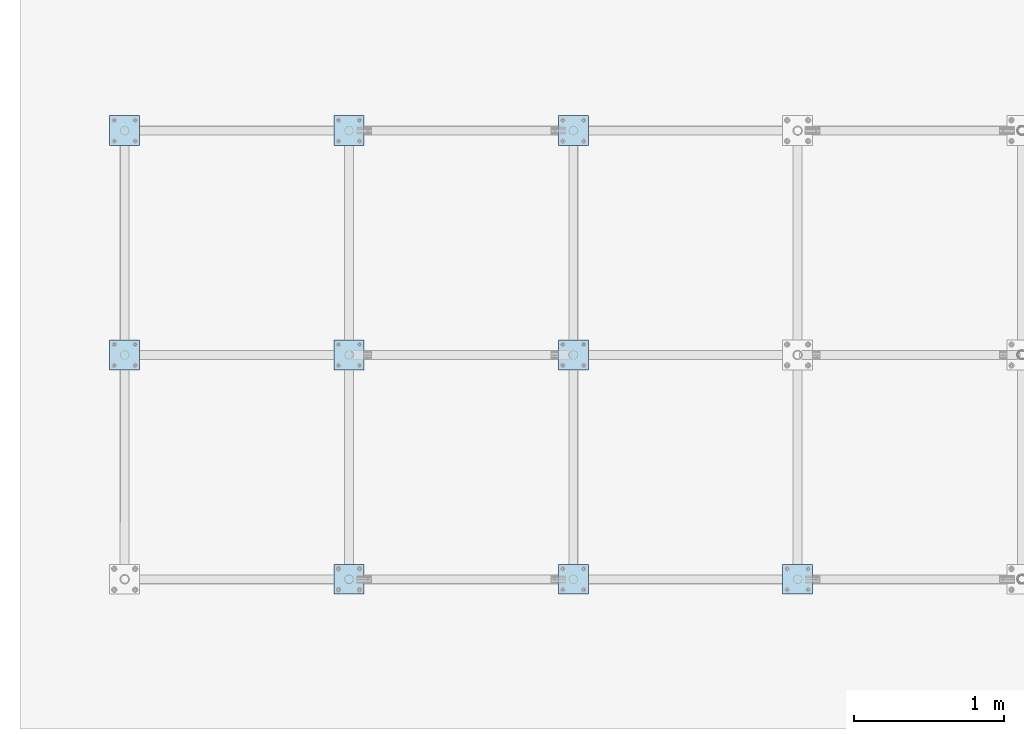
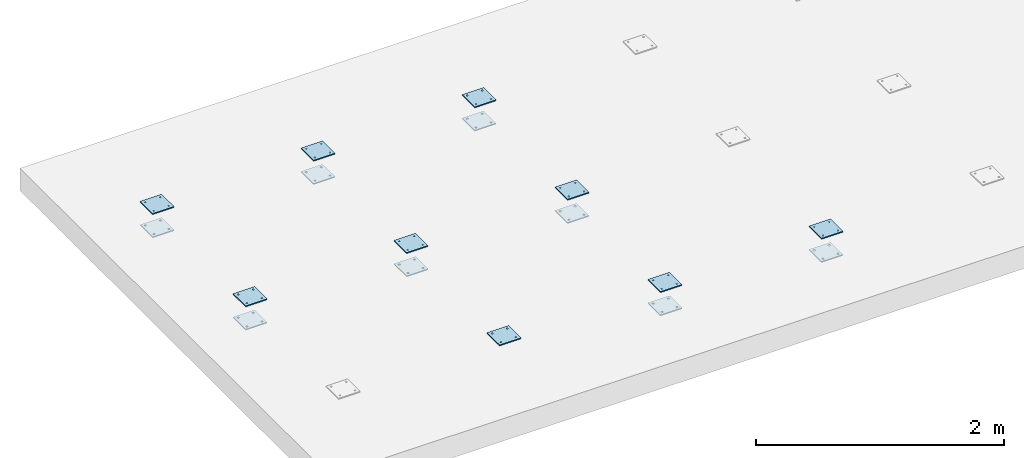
# One storey, part 5 of 30: 17 plates, 68 openings.
"""IFC2X3 building model written with IfcOpenShell, lengths in millimetres."""

from ifc_helpers import new_model, entity, si_unit, converted_unit, frame, frame_2d, origin, origin_with_axes, place, context, project, spatial, polyline, circle, outline, extrude, material, layer, layer_set, element, save


model = new_model("IFC2X3")

# Units and contexts
model_context = context("Model", 3, precision=1e-09, world=origin_with_axes())
ifc_project = project(units=[si_unit("LENGTHUNIT", "METRE", prefix="MILLI"), si_unit("AREAUNIT", "SQUARE_METRE"), si_unit("VOLUMEUNIT", "CUBIC_METRE"), converted_unit("PLANEANGLEUNIT", "DEGREE", entity("IfcPlaneAngleMeasure", 0.01745329), si_unit("PLANEANGLEUNIT", "RADIAN"), dimensions=[0, 0, 0, 0, 0, 0, 0])], contexts=[model_context])

# Site, building, storey
site_placement = place(None, origin_with_axes())
site = spatial("IfcSite", under=ifc_project, at=site_placement, Name="M?nsinger Stra?e, 81477 M?nchen", CompositionType="ELEMENT")
building_placement = place(site_placement, origin_with_axes())
building = spatial("IfcBuilding", under=site, at=building_placement, Name="Struktur 1", CompositionType="ELEMENT")
storey_placement = place(building_placement, origin_with_axes())
storey = spatial("IfcBuildingStorey", under=building, at=storey_placement, Name="Default Storey", CompositionType="ELEMENT", Elevation=0.0)

# Plate, openings
ifc_material = material(Name="S235JR")
ifc_layer = layer(ifc_material, 10.0)
ifc_layer_set = layer_set([ifc_layer], Name="S235JR")
plate_1_placement = place(None, frame((1406.315117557, 2991.2632594, 6745.0), z_axis=(0.0, 0.0, -1.0), x_axis=(1.0, 0.0, 0.0)))
plate_1 = element("IfcPlate", 1, at=plate_1_placement, inside=storey, material=ifc_layer_set, Name="-", ObjectType="-", context=model_context, shape_type="SweptSolid", body=[
    extrude(outline(polyline([(-100.0, -100.0), (100.0, -100.0), (100.0, 100.0), (-100.0, 100.0), (-100.0, -100.0)])), origin_with_axes(), (0.0, 0.0, -1.0), 10.0),
])
opening_1_placement = place(plate_1_placement, frame((63.749, 70.0, 0.5), z_axis=(0.0, 0.0, 1.0), x_axis=(1.0, 0.0, 0.0)))
element("IfcOpeningElement", 2, at=opening_1_placement, cuts=plate_1, ObjectType="Opening", context=model_context, shape_type="SweptSolid", body=[
    extrude(circle(Radius=6.251, at=frame_2d((6.251, 0.0), x_axis=(1.0, 0.0))), origin(), (0.0, 0.0, -1.0), 11.0),
])
opening_2_placement = place(plate_1_placement, frame((-76.251, 70.0, 0.5), z_axis=(0.0, 0.0, 1.0), x_axis=(1.0, 0.0, 0.0)))
element("IfcOpeningElement", 3, at=opening_2_placement, cuts=plate_1, ObjectType="Opening", context=model_context, shape_type="SweptSolid", body=[
    extrude(circle(Radius=6.251, at=frame_2d((6.251, 0.0), x_axis=(1.0, 0.0))), origin(), (0.0, 0.0, -1.0), 11.0),
])
opening_3_placement = place(plate_1_placement, frame((63.749, -70.0, 0.5), z_axis=(0.0, 0.0, 1.0), x_axis=(1.0, 0.0, 0.0)))
element("IfcOpeningElement", 4, at=opening_3_placement, cuts=plate_1, ObjectType="Opening", context=model_context, shape_type="SweptSolid", body=[
    extrude(circle(Radius=6.251, at=frame_2d((6.251, 0.0), x_axis=(1.0, 0.0))), origin(), (0.0, 0.0, -1.0), 11.0),
])
opening_4_placement = place(plate_1_placement, frame((-76.251, -70.0, 0.5), z_axis=(0.0, 0.0, 1.0), x_axis=(1.0, 0.0, 0.0)))
element("IfcOpeningElement", 5, at=opening_4_placement, cuts=plate_1, ObjectType="Opening", context=model_context, shape_type="SweptSolid", body=[
    extrude(circle(Radius=6.251, at=frame_2d((6.251, 0.0), x_axis=(1.0, 0.0))), origin(), (0.0, 0.0, -1.0), 11.0),
])

plate_2_placement = place(None, frame((1406.315117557, 2991.2632594, 6515.0), z_axis=(0.0, 0.0, -1.0), x_axis=(1.0, 0.0, 0.0)))
plate_2 = element("IfcPlate", 6, at=plate_2_placement, inside=storey, material=ifc_layer_set, Name="-", ObjectType="-", context=model_context, shape_type="SweptSolid", body=[
    extrude(outline(polyline([(-100.0, -100.0), (100.0, -100.0), (100.0, 100.0), (-100.0, 100.0), (-100.0, -100.0)])), origin_with_axes(), (0.0, 0.0, -1.0), 10.0),
])
opening_5_placement = place(plate_2_placement, frame((60.999, 70.0, 0.5), z_axis=(0.0, 0.0, 1.0), x_axis=(1.0, 0.0, 0.0)))
element("IfcOpeningElement", 7, at=opening_5_placement, cuts=plate_2, ObjectType="Opening", context=model_context, shape_type="SweptSolid", body=[
    extrude(circle(Radius=9.001, at=frame_2d((9.001, 0.0), x_axis=(1.0, 0.0))), origin(), (0.0, 0.0, -1.0), 11.0),
])
opening_6_placement = place(plate_2_placement, frame((-79.001, 70.0, 0.5), z_axis=(0.0, 0.0, 1.0), x_axis=(1.0, 0.0, 0.0)))
element("IfcOpeningElement", 8, at=opening_6_placement, cuts=plate_2, ObjectType="Opening", context=model_context, shape_type="SweptSolid", body=[
    extrude(circle(Radius=9.001, at=frame_2d((9.001, 0.0), x_axis=(1.0, 0.0))), origin(), (0.0, 0.0, -1.0), 11.0),
])
opening_7_placement = place(plate_2_placement, frame((60.999, -70.0, 0.5), z_axis=(0.0, 0.0, 1.0), x_axis=(1.0, 0.0, 0.0)))
element("IfcOpeningElement", 9, at=opening_7_placement, cuts=plate_2, ObjectType="Opening", context=model_context, shape_type="SweptSolid", body=[
    extrude(circle(Radius=9.001, at=frame_2d((9.001, 0.0), x_axis=(1.0, 0.0))), origin(), (0.0, 0.0, -1.0), 11.0),
])
opening_8_placement = place(plate_2_placement, frame((-79.001, -70.0, 0.5), z_axis=(0.0, 0.0, 1.0), x_axis=(1.0, 0.0, 0.0)))
element("IfcOpeningElement", 10, at=opening_8_placement, cuts=plate_2, ObjectType="Opening", context=model_context, shape_type="SweptSolid", body=[
    extrude(circle(Radius=9.001, at=frame_2d((9.001, 0.0), x_axis=(1.0, 0.0))), origin(), (0.0, 0.0, -1.0), 11.0),
])

plate_3_placement = place(None, frame((1406.315117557, 4491.2632594, 6745.0), z_axis=(0.0, 0.0, -1.0), x_axis=(1.0, 0.0, 0.0)))
plate_3 = element("IfcPlate", 11, at=plate_3_placement, inside=storey, material=ifc_layer_set, Name="-", ObjectType="-", context=model_context, shape_type="SweptSolid", body=[
    extrude(outline(polyline([(-100.0, -100.0), (100.0, -100.0), (100.0, 100.0), (-100.0, 100.0), (-100.0, -100.0)])), origin_with_axes(), (0.0, 0.0, -1.0), 10.0),
])
opening_9_placement = place(plate_3_placement, frame((63.749, 70.0, 0.5), z_axis=(0.0, 0.0, 1.0), x_axis=(1.0, 0.0, 0.0)))
element("IfcOpeningElement", 12, at=opening_9_placement, cuts=plate_3, ObjectType="Opening", context=model_context, shape_type="SweptSolid", body=[
    extrude(circle(Radius=6.251, at=frame_2d((6.251, 0.0), x_axis=(1.0, 0.0))), origin(), (0.0, 0.0, -1.0), 11.0),
])
opening_10_placement = place(plate_3_placement, frame((-76.251, 70.0, 0.5), z_axis=(0.0, 0.0, 1.0), x_axis=(1.0, 0.0, 0.0)))
element("IfcOpeningElement", 13, at=opening_10_placement, cuts=plate_3, ObjectType="Opening", context=model_context, shape_type="SweptSolid", body=[
    extrude(circle(Radius=6.251, at=frame_2d((6.251, 0.0), x_axis=(1.0, 0.0))), origin(), (0.0, 0.0, -1.0), 11.0),
])
opening_11_placement = place(plate_3_placement, frame((63.749, -70.0, 0.5), z_axis=(0.0, 0.0, 1.0), x_axis=(1.0, 0.0, 0.0)))
element("IfcOpeningElement", 14, at=opening_11_placement, cuts=plate_3, ObjectType="Opening", context=model_context, shape_type="SweptSolid", body=[
    extrude(circle(Radius=6.251, at=frame_2d((6.251, 0.0), x_axis=(1.0, 0.0))), origin(), (0.0, 0.0, -1.0), 11.0),
])
opening_12_placement = place(plate_3_placement, frame((-76.251, -70.0, 0.5), z_axis=(0.0, 0.0, 1.0), x_axis=(1.0, 0.0, 0.0)))
element("IfcOpeningElement", 15, at=opening_12_placement, cuts=plate_3, ObjectType="Opening", context=model_context, shape_type="SweptSolid", body=[
    extrude(circle(Radius=6.251, at=frame_2d((6.251, 0.0), x_axis=(1.0, 0.0))), origin(), (0.0, 0.0, -1.0), 11.0),
])

plate_4_placement = place(None, frame((1406.315117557, 4491.2632594, 6515.0), z_axis=(0.0, 0.0, -1.0), x_axis=(1.0, 0.0, 0.0)))
plate_4 = element("IfcPlate", 16, at=plate_4_placement, inside=storey, material=ifc_layer_set, Name="-", ObjectType="-", context=model_context, shape_type="SweptSolid", body=[
    extrude(outline(polyline([(-100.0, -100.0), (100.0, -100.0), (100.0, 100.0), (-100.0, 100.0), (-100.0, -100.0)])), origin_with_axes(), (0.0, 0.0, -1.0), 10.0),
])
opening_13_placement = place(plate_4_placement, frame((60.999, 70.0, 0.5), z_axis=(0.0, 0.0, 1.0), x_axis=(1.0, 0.0, 0.0)))
element("IfcOpeningElement", 17, at=opening_13_placement, cuts=plate_4, ObjectType="Opening", context=model_context, shape_type="SweptSolid", body=[
    extrude(circle(Radius=9.001, at=frame_2d((9.001, 0.0), x_axis=(1.0, 0.0))), origin(), (0.0, 0.0, -1.0), 11.0),
])
opening_14_placement = place(plate_4_placement, frame((-79.001, 70.0, 0.5), z_axis=(0.0, 0.0, 1.0), x_axis=(1.0, 0.0, 0.0)))
element("IfcOpeningElement", 18, at=opening_14_placement, cuts=plate_4, ObjectType="Opening", context=model_context, shape_type="SweptSolid", body=[
    extrude(circle(Radius=9.001, at=frame_2d((9.001, 0.0), x_axis=(1.0, 0.0))), origin(), (0.0, 0.0, -1.0), 11.0),
])
opening_15_placement = place(plate_4_placement, frame((60.999, -70.0, 0.5), z_axis=(0.0, 0.0, 1.0), x_axis=(1.0, 0.0, 0.0)))
element("IfcOpeningElement", 19, at=opening_15_placement, cuts=plate_4, ObjectType="Opening", context=model_context, shape_type="SweptSolid", body=[
    extrude(circle(Radius=9.001, at=frame_2d((9.001, 0.0), x_axis=(1.0, 0.0))), origin(), (0.0, 0.0, -1.0), 11.0),
])
opening_16_placement = place(plate_4_placement, frame((-79.001, -70.0, 0.5), z_axis=(0.0, 0.0, 1.0), x_axis=(1.0, 0.0, 0.0)))
element("IfcOpeningElement", 20, at=opening_16_placement, cuts=plate_4, ObjectType="Opening", context=model_context, shape_type="SweptSolid", body=[
    extrude(circle(Radius=9.001, at=frame_2d((9.001, 0.0), x_axis=(1.0, 0.0))), origin(), (0.0, 0.0, -1.0), 11.0),
])

plate_5_placement = place(None, frame((2906.315117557, 2991.2632594, 6515.0), z_axis=(0.0, 0.0, 1.0), x_axis=(-1.0, 0.0, 0.0)))
plate_5 = element("IfcPlate", 21, at=plate_5_placement, inside=storey, material=ifc_layer_set, Name="-", ObjectType="-", context=model_context, shape_type="SweptSolid", body=[
    extrude(outline(polyline([(-100.0, -100.0), (100.0, -100.0), (100.0, 100.0), (-100.0, 100.0), (-100.0, -100.0)])), origin_with_axes(), (0.0, 0.0, 1.0), 10.0),
])
opening_17_placement = place(plate_5_placement, frame((-100.0, 100.0, -0.5), z_axis=(0.0, 0.0, 1.0), x_axis=(1.0, 0.0, 0.0)))
element("IfcOpeningElement", 22, at=opening_17_placement, cuts=plate_5, ObjectType="Opening", context=model_context, shape_type="SweptSolid", body=[
    extrude(circle(Radius=9.001, at=frame_2d((170.0, -30.0), x_axis=(1.0, 0.0))), origin(), (0.0, 0.0, 1.0), 11.0),
])
opening_18_placement = place(plate_5_placement, frame((-100.0, 100.0, -0.5), z_axis=(0.0, 0.0, 1.0), x_axis=(1.0, 0.0, 0.0)))
element("IfcOpeningElement", 23, at=opening_18_placement, cuts=plate_5, ObjectType="Opening", context=model_context, shape_type="SweptSolid", body=[
    extrude(circle(Radius=9.001, at=frame_2d((30.0, -30.0), x_axis=(1.0, 0.0))), origin(), (0.0, 0.0, 1.0), 11.0),
])
opening_19_placement = place(plate_5_placement, frame((-100.0, 100.0, -0.5), z_axis=(0.0, 0.0, 1.0), x_axis=(1.0, 0.0, 0.0)))
element("IfcOpeningElement", 24, at=opening_19_placement, cuts=plate_5, ObjectType="Opening", context=model_context, shape_type="SweptSolid", body=[
    extrude(circle(Radius=9.001, at=frame_2d((170.0, -170.0), x_axis=(1.0, 0.0))), origin(), (0.0, 0.0, 1.0), 11.0),
])
opening_20_placement = place(plate_5_placement, frame((-100.0, 100.0, -0.5), z_axis=(0.0, 0.0, 1.0), x_axis=(1.0, 0.0, 0.0)))
element("IfcOpeningElement", 25, at=opening_20_placement, cuts=plate_5, ObjectType="Opening", context=model_context, shape_type="SweptSolid", body=[
    extrude(circle(Radius=9.001, at=frame_2d((30.0, -170.0), x_axis=(1.0, 0.0))), origin(), (0.0, 0.0, 1.0), 11.0),
])

plate_6_placement = place(None, frame((2906.315117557, 2991.2632594, 6745.0), z_axis=(0.0, 0.0, 1.0), x_axis=(-1.0, 0.0, 0.0)))
plate_6 = element("IfcPlate", 26, at=plate_6_placement, inside=storey, material=ifc_layer_set, Name="-", ObjectType="-", context=model_context, shape_type="SweptSolid", body=[
    extrude(outline(polyline([(-100.0, -100.0), (100.0, -100.0), (100.0, 100.0), (-100.0, 100.0), (-100.0, -100.0)])), origin_with_axes(), (0.0, 0.0, 1.0), 10.0),
])
opening_21_placement = place(plate_6_placement, frame((-100.0, 100.0, -0.5), z_axis=(0.0, 0.0, 1.0), x_axis=(1.0, 0.0, 0.0)))
element("IfcOpeningElement", 27, at=opening_21_placement, cuts=plate_6, ObjectType="Opening", context=model_context, shape_type="SweptSolid", body=[
    extrude(circle(Radius=6.251, at=frame_2d((170.0, -30.0), x_axis=(1.0, 0.0))), origin(), (0.0, 0.0, 1.0), 11.0),
])
opening_22_placement = place(plate_6_placement, frame((-100.0, 100.0, -0.5), z_axis=(0.0, 0.0, 1.0), x_axis=(1.0, 0.0, 0.0)))
element("IfcOpeningElement", 28, at=opening_22_placement, cuts=plate_6, ObjectType="Opening", context=model_context, shape_type="SweptSolid", body=[
    extrude(circle(Radius=6.251, at=frame_2d((30.0, -30.0), x_axis=(1.0, 0.0))), origin(), (0.0, 0.0, 1.0), 11.0),
])
opening_23_placement = place(plate_6_placement, frame((-100.0, 100.0, -0.5), z_axis=(0.0, 0.0, 1.0), x_axis=(1.0, 0.0, 0.0)))
element("IfcOpeningElement", 29, at=opening_23_placement, cuts=plate_6, ObjectType="Opening", context=model_context, shape_type="SweptSolid", body=[
    extrude(circle(Radius=6.251, at=frame_2d((170.0, -170.0), x_axis=(1.0, 0.0))), origin(), (0.0, 0.0, 1.0), 11.0),
])
opening_24_placement = place(plate_6_placement, frame((-100.0, 100.0, -0.5), z_axis=(0.0, 0.0, 1.0), x_axis=(1.0, 0.0, 0.0)))
element("IfcOpeningElement", 30, at=opening_24_placement, cuts=plate_6, ObjectType="Opening", context=model_context, shape_type="SweptSolid", body=[
    extrude(circle(Radius=6.251, at=frame_2d((30.0, -170.0), x_axis=(1.0, 0.0))), origin(), (0.0, 0.0, 1.0), 11.0),
])

plate_7_placement = place(None, frame((2906.315117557, 1491.2632594, 6745.0), z_axis=(0.0, 0.0, -1.0), x_axis=(0.0, 1.0, 0.0)))
plate_7 = element("IfcPlate", 31, at=plate_7_placement, inside=storey, material=ifc_layer_set, Name="-", ObjectType="-", context=model_context, shape_type="SweptSolid", body=[
    extrude(outline(polyline([(-100.0, -100.0), (100.0, -100.0), (100.0, 100.0), (-100.0, 100.0), (-100.0, -100.0)])), origin_with_axes(), (0.0, 0.0, -1.0), 10.0),
])
opening_25_placement = place(plate_7_placement, frame((63.749, 70.0, 0.5), z_axis=(0.0, 0.0, 1.0), x_axis=(1.0, 0.0, 0.0)))
element("IfcOpeningElement", 32, at=opening_25_placement, cuts=plate_7, ObjectType="Opening", context=model_context, shape_type="SweptSolid", body=[
    extrude(circle(Radius=6.251, at=frame_2d((6.251, 0.0), x_axis=(1.0, 0.0))), origin(), (0.0, 0.0, -1.0), 11.0),
])
opening_26_placement = place(plate_7_placement, frame((-76.251, 70.0, 0.5), z_axis=(0.0, 0.0, 1.0), x_axis=(1.0, 0.0, 0.0)))
element("IfcOpeningElement", 33, at=opening_26_placement, cuts=plate_7, ObjectType="Opening", context=model_context, shape_type="SweptSolid", body=[
    extrude(circle(Radius=6.251, at=frame_2d((6.251, 0.0), x_axis=(1.0, 0.0))), origin(), (0.0, 0.0, -1.0), 11.0),
])
opening_27_placement = place(plate_7_placement, frame((63.749, -70.0, 0.5), z_axis=(0.0, 0.0, 1.0), x_axis=(1.0, 0.0, 0.0)))
element("IfcOpeningElement", 34, at=opening_27_placement, cuts=plate_7, ObjectType="Opening", context=model_context, shape_type="SweptSolid", body=[
    extrude(circle(Radius=6.251, at=frame_2d((6.251, 0.0), x_axis=(1.0, 0.0))), origin(), (0.0, 0.0, -1.0), 11.0),
])
opening_28_placement = place(plate_7_placement, frame((-76.251, -70.0, 0.5), z_axis=(0.0, 0.0, 1.0), x_axis=(1.0, 0.0, 0.0)))
element("IfcOpeningElement", 35, at=opening_28_placement, cuts=plate_7, ObjectType="Opening", context=model_context, shape_type="SweptSolid", body=[
    extrude(circle(Radius=6.251, at=frame_2d((6.251, 0.0), x_axis=(1.0, 0.0))), origin(), (0.0, 0.0, -1.0), 11.0),
])

plate_8_placement = place(None, frame((2906.315117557, 4491.2632594, 6745.0), z_axis=(0.0, 0.0, 1.0), x_axis=(0.0, -1.0, 0.0)))
plate_8 = element("IfcPlate", 36, at=plate_8_placement, inside=storey, material=ifc_layer_set, Name="-", ObjectType="-", context=model_context, shape_type="SweptSolid", body=[
    extrude(outline(polyline([(-100.0, -100.0), (100.0, -100.0), (100.0, 100.0), (-100.0, 100.0), (-100.0, -100.0)])), origin_with_axes(), (0.0, 0.0, 1.0), 10.0),
])
opening_29_placement = place(plate_8_placement, frame((-100.0, 100.0, -0.5), z_axis=(0.0, 0.0, 1.0), x_axis=(1.0, 0.0, 0.0)))
element("IfcOpeningElement", 37, at=opening_29_placement, cuts=plate_8, ObjectType="Opening", context=model_context, shape_type="SweptSolid", body=[
    extrude(circle(Radius=6.251, at=frame_2d((170.0, -30.0), x_axis=(1.0, 0.0))), origin(), (0.0, 0.0, 1.0), 11.0),
])
opening_30_placement = place(plate_8_placement, frame((-100.0, 100.0, -0.5), z_axis=(0.0, 0.0, 1.0), x_axis=(1.0, 0.0, 0.0)))
element("IfcOpeningElement", 38, at=opening_30_placement, cuts=plate_8, ObjectType="Opening", context=model_context, shape_type="SweptSolid", body=[
    extrude(circle(Radius=6.251, at=frame_2d((30.0, -30.0), x_axis=(1.0, 0.0))), origin(), (0.0, 0.0, 1.0), 11.0),
])
opening_31_placement = place(plate_8_placement, frame((-100.0, 100.0, -0.5), z_axis=(0.0, 0.0, 1.0), x_axis=(1.0, 0.0, 0.0)))
element("IfcOpeningElement", 39, at=opening_31_placement, cuts=plate_8, ObjectType="Opening", context=model_context, shape_type="SweptSolid", body=[
    extrude(circle(Radius=6.251, at=frame_2d((170.0, -170.0), x_axis=(1.0, 0.0))), origin(), (0.0, 0.0, 1.0), 11.0),
])
opening_32_placement = place(plate_8_placement, frame((-100.0, 100.0, -0.5), z_axis=(0.0, 0.0, 1.0), x_axis=(1.0, 0.0, 0.0)))
element("IfcOpeningElement", 40, at=opening_32_placement, cuts=plate_8, ObjectType="Opening", context=model_context, shape_type="SweptSolid", body=[
    extrude(circle(Radius=6.251, at=frame_2d((30.0, -170.0), x_axis=(1.0, 0.0))), origin(), (0.0, 0.0, 1.0), 11.0),
])

plate_9_placement = place(None, frame((2906.315117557, 4491.2632594, 6515.0), z_axis=(0.0, 0.0, 1.0), x_axis=(0.0, -1.0, 0.0)))
plate_9 = element("IfcPlate", 41, at=plate_9_placement, inside=storey, material=ifc_layer_set, Name="-", ObjectType="-", context=model_context, shape_type="SweptSolid", body=[
    extrude(outline(polyline([(-100.0, -100.0), (100.0, -100.0), (100.0, 100.0), (-100.0, 100.0), (-100.0, -100.0)])), origin_with_axes(), (0.0, 0.0, 1.0), 10.0),
])
opening_33_placement = place(plate_9_placement, frame((-100.0, 100.0, -0.5), z_axis=(0.0, 0.0, 1.0), x_axis=(1.0, 0.0, 0.0)))
element("IfcOpeningElement", 42, at=opening_33_placement, cuts=plate_9, ObjectType="Opening", context=model_context, shape_type="SweptSolid", body=[
    extrude(circle(Radius=9.001, at=frame_2d((170.0, -30.0), x_axis=(1.0, 0.0))), origin(), (0.0, 0.0, 1.0), 11.0),
])
opening_34_placement = place(plate_9_placement, frame((-100.0, 100.0, -0.5), z_axis=(0.0, 0.0, 1.0), x_axis=(1.0, 0.0, 0.0)))
element("IfcOpeningElement", 43, at=opening_34_placement, cuts=plate_9, ObjectType="Opening", context=model_context, shape_type="SweptSolid", body=[
    extrude(circle(Radius=9.001, at=frame_2d((30.0, -30.0), x_axis=(1.0, 0.0))), origin(), (0.0, 0.0, 1.0), 11.0),
])
opening_35_placement = place(plate_9_placement, frame((-100.0, 100.0, -0.5), z_axis=(0.0, 0.0, 1.0), x_axis=(1.0, 0.0, 0.0)))
element("IfcOpeningElement", 44, at=opening_35_placement, cuts=plate_9, ObjectType="Opening", context=model_context, shape_type="SweptSolid", body=[
    extrude(circle(Radius=9.001, at=frame_2d((170.0, -170.0), x_axis=(1.0, 0.0))), origin(), (0.0, 0.0, 1.0), 11.0),
])
opening_36_placement = place(plate_9_placement, frame((-100.0, 100.0, -0.5), z_axis=(0.0, 0.0, 1.0), x_axis=(1.0, 0.0, 0.0)))
element("IfcOpeningElement", 45, at=opening_36_placement, cuts=plate_9, ObjectType="Opening", context=model_context, shape_type="SweptSolid", body=[
    extrude(circle(Radius=9.001, at=frame_2d((30.0, -170.0), x_axis=(1.0, 0.0))), origin(), (0.0, 0.0, 1.0), 11.0),
])

plate_10_placement = place(None, frame((4406.315117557, 2991.2632594, 6515.0), z_axis=(0.0, 0.0, 1.0), x_axis=(-1.0, 0.0, 0.0)))
plate_10 = element("IfcPlate", 46, at=plate_10_placement, inside=storey, material=ifc_layer_set, Name="-", ObjectType="-", context=model_context, shape_type="SweptSolid", body=[
    extrude(outline(polyline([(-100.0, -100.0), (100.0, -100.0), (100.0, 100.0), (-100.0, 100.0), (-100.0, -100.0)])), origin_with_axes(), (0.0, 0.0, 1.0), 10.0),
])
opening_37_placement = place(plate_10_placement, frame((-100.0, 100.0, -0.5), z_axis=(0.0, 0.0, 1.0), x_axis=(1.0, 0.0, 0.0)))
element("IfcOpeningElement", 47, at=opening_37_placement, cuts=plate_10, ObjectType="Opening", context=model_context, shape_type="SweptSolid", body=[
    extrude(circle(Radius=9.001, at=frame_2d((170.0, -30.0), x_axis=(1.0, 0.0))), origin(), (0.0, 0.0, 1.0), 11.0),
])
opening_38_placement = place(plate_10_placement, frame((-100.0, 100.0, -0.5), z_axis=(0.0, 0.0, 1.0), x_axis=(1.0, 0.0, 0.0)))
element("IfcOpeningElement", 48, at=opening_38_placement, cuts=plate_10, ObjectType="Opening", context=model_context, shape_type="SweptSolid", body=[
    extrude(circle(Radius=9.001, at=frame_2d((30.0, -30.0), x_axis=(1.0, 0.0))), origin(), (0.0, 0.0, 1.0), 11.0),
])
opening_39_placement = place(plate_10_placement, frame((-100.0, 100.0, -0.5), z_axis=(0.0, 0.0, 1.0), x_axis=(1.0, 0.0, 0.0)))
element("IfcOpeningElement", 49, at=opening_39_placement, cuts=plate_10, ObjectType="Opening", context=model_context, shape_type="SweptSolid", body=[
    extrude(circle(Radius=9.001, at=frame_2d((170.0, -170.0), x_axis=(1.0, 0.0))), origin(), (0.0, 0.0, 1.0), 11.0),
])
opening_40_placement = place(plate_10_placement, frame((-100.0, 100.0, -0.5), z_axis=(0.0, 0.0, 1.0), x_axis=(1.0, 0.0, 0.0)))
element("IfcOpeningElement", 50, at=opening_40_placement, cuts=plate_10, ObjectType="Opening", context=model_context, shape_type="SweptSolid", body=[
    extrude(circle(Radius=9.001, at=frame_2d((30.0, -170.0), x_axis=(1.0, 0.0))), origin(), (0.0, 0.0, 1.0), 11.0),
])

plate_11_placement = place(None, frame((4406.315117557, 2991.2632594, 6745.0), z_axis=(0.0, 0.0, 1.0), x_axis=(-1.0, 0.0, 0.0)))
plate_11 = element("IfcPlate", 51, at=plate_11_placement, inside=storey, material=ifc_layer_set, Name="-", ObjectType="-", context=model_context, shape_type="SweptSolid", body=[
    extrude(outline(polyline([(-100.0, -100.0), (100.0, -100.0), (100.0, 100.0), (-100.0, 100.0), (-100.0, -100.0)])), origin_with_axes(), (0.0, 0.0, 1.0), 10.0),
])
opening_41_placement = place(plate_11_placement, frame((-100.0, 100.0, -0.5), z_axis=(0.0, 0.0, 1.0), x_axis=(1.0, 0.0, 0.0)))
element("IfcOpeningElement", 52, at=opening_41_placement, cuts=plate_11, ObjectType="Opening", context=model_context, shape_type="SweptSolid", body=[
    extrude(circle(Radius=6.251, at=frame_2d((170.0, -30.0), x_axis=(1.0, 0.0))), origin(), (0.0, 0.0, 1.0), 11.0),
])
opening_42_placement = place(plate_11_placement, frame((-100.0, 100.0, -0.5), z_axis=(0.0, 0.0, 1.0), x_axis=(1.0, 0.0, 0.0)))
element("IfcOpeningElement", 53, at=opening_42_placement, cuts=plate_11, ObjectType="Opening", context=model_context, shape_type="SweptSolid", body=[
    extrude(circle(Radius=6.251, at=frame_2d((30.0, -30.0), x_axis=(1.0, 0.0))), origin(), (0.0, 0.0, 1.0), 11.0),
])
opening_43_placement = place(plate_11_placement, frame((-100.0, 100.0, -0.5), z_axis=(0.0, 0.0, 1.0), x_axis=(1.0, 0.0, 0.0)))
element("IfcOpeningElement", 54, at=opening_43_placement, cuts=plate_11, ObjectType="Opening", context=model_context, shape_type="SweptSolid", body=[
    extrude(circle(Radius=6.251, at=frame_2d((170.0, -170.0), x_axis=(1.0, 0.0))), origin(), (0.0, 0.0, 1.0), 11.0),
])
opening_44_placement = place(plate_11_placement, frame((-100.0, 100.0, -0.5), z_axis=(0.0, 0.0, 1.0), x_axis=(1.0, 0.0, 0.0)))
element("IfcOpeningElement", 55, at=opening_44_placement, cuts=plate_11, ObjectType="Opening", context=model_context, shape_type="SweptSolid", body=[
    extrude(circle(Radius=6.251, at=frame_2d((30.0, -170.0), x_axis=(1.0, 0.0))), origin(), (0.0, 0.0, 1.0), 11.0),
])

plate_12_placement = place(None, frame((4406.315117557, 1491.2632594, 6745.0), z_axis=(0.0, 0.0, -1.0), x_axis=(0.0, 1.0, 0.0)))
plate_12 = element("IfcPlate", 56, at=plate_12_placement, inside=storey, material=ifc_layer_set, Name="-", ObjectType="-", context=model_context, shape_type="SweptSolid", body=[
    extrude(outline(polyline([(-100.0, -100.0), (100.0, -100.0), (100.0, 100.0), (-100.0, 100.0), (-100.0, -100.0)])), origin_with_axes(), (0.0, 0.0, -1.0), 10.0),
])
opening_45_placement = place(plate_12_placement, frame((63.749, 70.0, 0.5), z_axis=(0.0, 0.0, 1.0), x_axis=(1.0, 0.0, 0.0)))
element("IfcOpeningElement", 57, at=opening_45_placement, cuts=plate_12, ObjectType="Opening", context=model_context, shape_type="SweptSolid", body=[
    extrude(circle(Radius=6.251, at=frame_2d((6.251, 0.0), x_axis=(1.0, 0.0))), origin(), (0.0, 0.0, -1.0), 11.0),
])
opening_46_placement = place(plate_12_placement, frame((-76.251, 70.0, 0.5), z_axis=(0.0, 0.0, 1.0), x_axis=(1.0, 0.0, 0.0)))
element("IfcOpeningElement", 58, at=opening_46_placement, cuts=plate_12, ObjectType="Opening", context=model_context, shape_type="SweptSolid", body=[
    extrude(circle(Radius=6.251, at=frame_2d((6.251, 0.0), x_axis=(1.0, 0.0))), origin(), (0.0, 0.0, -1.0), 11.0),
])
opening_47_placement = place(plate_12_placement, frame((63.749, -70.0, 0.5), z_axis=(0.0, 0.0, 1.0), x_axis=(1.0, 0.0, 0.0)))
element("IfcOpeningElement", 59, at=opening_47_placement, cuts=plate_12, ObjectType="Opening", context=model_context, shape_type="SweptSolid", body=[
    extrude(circle(Radius=6.251, at=frame_2d((6.251, 0.0), x_axis=(1.0, 0.0))), origin(), (0.0, 0.0, -1.0), 11.0),
])
opening_48_placement = place(plate_12_placement, frame((-76.251, -70.0, 0.5), z_axis=(0.0, 0.0, 1.0), x_axis=(1.0, 0.0, 0.0)))
element("IfcOpeningElement", 60, at=opening_48_placement, cuts=plate_12, ObjectType="Opening", context=model_context, shape_type="SweptSolid", body=[
    extrude(circle(Radius=6.251, at=frame_2d((6.251, 0.0), x_axis=(1.0, 0.0))), origin(), (0.0, 0.0, -1.0), 11.0),
])

plate_13_placement = place(None, frame((4406.315117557, 1491.2632594, 6515.0), z_axis=(0.0, 0.0, -1.0), x_axis=(0.0, 1.0, 0.0)))
plate_13 = element("IfcPlate", 61, at=plate_13_placement, inside=storey, material=ifc_layer_set, Name="-", ObjectType="-", context=model_context, shape_type="SweptSolid", body=[
    extrude(outline(polyline([(-100.0, -100.0), (100.0, -100.0), (100.0, 100.0), (-100.0, 100.0), (-100.0, -100.0)])), origin_with_axes(), (0.0, 0.0, -1.0), 10.0),
])
opening_49_placement = place(plate_13_placement, frame((60.999, 70.0, 0.5), z_axis=(0.0, 0.0, 1.0), x_axis=(1.0, 0.0, 0.0)))
element("IfcOpeningElement", 62, at=opening_49_placement, cuts=plate_13, ObjectType="Opening", context=model_context, shape_type="SweptSolid", body=[
    extrude(circle(Radius=9.001, at=frame_2d((9.001, 0.0), x_axis=(1.0, 0.0))), origin(), (0.0, 0.0, -1.0), 11.0),
])
opening_50_placement = place(plate_13_placement, frame((-79.001, 70.0, 0.5), z_axis=(0.0, 0.0, 1.0), x_axis=(1.0, 0.0, 0.0)))
element("IfcOpeningElement", 63, at=opening_50_placement, cuts=plate_13, ObjectType="Opening", context=model_context, shape_type="SweptSolid", body=[
    extrude(circle(Radius=9.001, at=frame_2d((9.001, 0.0), x_axis=(1.0, 0.0))), origin(), (0.0, 0.0, -1.0), 11.0),
])
opening_51_placement = place(plate_13_placement, frame((60.999, -70.0, 0.5), z_axis=(0.0, 0.0, 1.0), x_axis=(1.0, 0.0, 0.0)))
element("IfcOpeningElement", 64, at=opening_51_placement, cuts=plate_13, ObjectType="Opening", context=model_context, shape_type="SweptSolid", body=[
    extrude(circle(Radius=9.001, at=frame_2d((9.001, 0.0), x_axis=(1.0, 0.0))), origin(), (0.0, 0.0, -1.0), 11.0),
])
opening_52_placement = place(plate_13_placement, frame((-79.001, -70.0, 0.5), z_axis=(0.0, 0.0, 1.0), x_axis=(1.0, 0.0, 0.0)))
element("IfcOpeningElement", 65, at=opening_52_placement, cuts=plate_13, ObjectType="Opening", context=model_context, shape_type="SweptSolid", body=[
    extrude(circle(Radius=9.001, at=frame_2d((9.001, 0.0), x_axis=(1.0, 0.0))), origin(), (0.0, 0.0, -1.0), 11.0),
])

plate_14_placement = place(None, frame((4406.315117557, 4491.2632594, 6515.0), z_axis=(0.0, 0.0, 1.0), x_axis=(0.0, -1.0, 0.0)))
plate_14 = element("IfcPlate", 66, at=plate_14_placement, inside=storey, material=ifc_layer_set, Name="-", ObjectType="-", context=model_context, shape_type="SweptSolid", body=[
    extrude(outline(polyline([(-100.0, -100.0), (100.0, -100.0), (100.0, 100.0), (-100.0, 100.0), (-100.0, -100.0)])), origin_with_axes(), (0.0, 0.0, 1.0), 10.0),
])
opening_53_placement = place(plate_14_placement, frame((-100.0, 100.0, -0.5), z_axis=(0.0, 0.0, 1.0), x_axis=(1.0, 0.0, 0.0)))
element("IfcOpeningElement", 67, at=opening_53_placement, cuts=plate_14, ObjectType="Opening", context=model_context, shape_type="SweptSolid", body=[
    extrude(circle(Radius=9.001, at=frame_2d((170.0, -30.0), x_axis=(1.0, 0.0))), origin(), (0.0, 0.0, 1.0), 11.0),
])
opening_54_placement = place(plate_14_placement, frame((-100.0, 100.0, -0.5), z_axis=(0.0, 0.0, 1.0), x_axis=(1.0, 0.0, 0.0)))
element("IfcOpeningElement", 68, at=opening_54_placement, cuts=plate_14, ObjectType="Opening", context=model_context, shape_type="SweptSolid", body=[
    extrude(circle(Radius=9.001, at=frame_2d((30.0, -30.0), x_axis=(1.0, 0.0))), origin(), (0.0, 0.0, 1.0), 11.0),
])
opening_55_placement = place(plate_14_placement, frame((-100.0, 100.0, -0.5), z_axis=(0.0, 0.0, 1.0), x_axis=(1.0, 0.0, 0.0)))
element("IfcOpeningElement", 69, at=opening_55_placement, cuts=plate_14, ObjectType="Opening", context=model_context, shape_type="SweptSolid", body=[
    extrude(circle(Radius=9.001, at=frame_2d((170.0, -170.0), x_axis=(1.0, 0.0))), origin(), (0.0, 0.0, 1.0), 11.0),
])
opening_56_placement = place(plate_14_placement, frame((-100.0, 100.0, -0.5), z_axis=(0.0, 0.0, 1.0), x_axis=(1.0, 0.0, 0.0)))
element("IfcOpeningElement", 70, at=opening_56_placement, cuts=plate_14, ObjectType="Opening", context=model_context, shape_type="SweptSolid", body=[
    extrude(circle(Radius=9.001, at=frame_2d((30.0, -170.0), x_axis=(1.0, 0.0))), origin(), (0.0, 0.0, 1.0), 11.0),
])

plate_15_placement = place(None, frame((4406.315117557, 4491.2632594, 6745.0), z_axis=(0.0, 0.0, 1.0), x_axis=(0.0, -1.0, 0.0)))
plate_15 = element("IfcPlate", 71, at=plate_15_placement, inside=storey, material=ifc_layer_set, Name="-", ObjectType="-", context=model_context, shape_type="SweptSolid", body=[
    extrude(outline(polyline([(-100.0, -100.0), (100.0, -100.0), (100.0, 100.0), (-100.0, 100.0), (-100.0, -100.0)])), origin_with_axes(), (0.0, 0.0, 1.0), 10.0),
])
opening_57_placement = place(plate_15_placement, frame((-100.0, 100.0, -0.5), z_axis=(0.0, 0.0, 1.0), x_axis=(1.0, 0.0, 0.0)))
element("IfcOpeningElement", 72, at=opening_57_placement, cuts=plate_15, ObjectType="Opening", context=model_context, shape_type="SweptSolid", body=[
    extrude(circle(Radius=6.251, at=frame_2d((170.0, -30.0), x_axis=(1.0, 0.0))), origin(), (0.0, 0.0, 1.0), 11.0),
])
opening_58_placement = place(plate_15_placement, frame((-100.0, 100.0, -0.5), z_axis=(0.0, 0.0, 1.0), x_axis=(1.0, 0.0, 0.0)))
element("IfcOpeningElement", 73, at=opening_58_placement, cuts=plate_15, ObjectType="Opening", context=model_context, shape_type="SweptSolid", body=[
    extrude(circle(Radius=6.251, at=frame_2d((30.0, -30.0), x_axis=(1.0, 0.0))), origin(), (0.0, 0.0, 1.0), 11.0),
])
opening_59_placement = place(plate_15_placement, frame((-100.0, 100.0, -0.5), z_axis=(0.0, 0.0, 1.0), x_axis=(1.0, 0.0, 0.0)))
element("IfcOpeningElement", 74, at=opening_59_placement, cuts=plate_15, ObjectType="Opening", context=model_context, shape_type="SweptSolid", body=[
    extrude(circle(Radius=6.251, at=frame_2d((170.0, -170.0), x_axis=(1.0, 0.0))), origin(), (0.0, 0.0, 1.0), 11.0),
])
opening_60_placement = place(plate_15_placement, frame((-100.0, 100.0, -0.5), z_axis=(0.0, 0.0, 1.0), x_axis=(1.0, 0.0, 0.0)))
element("IfcOpeningElement", 75, at=opening_60_placement, cuts=plate_15, ObjectType="Opening", context=model_context, shape_type="SweptSolid", body=[
    extrude(circle(Radius=6.251, at=frame_2d((30.0, -170.0), x_axis=(1.0, 0.0))), origin(), (0.0, 0.0, 1.0), 11.0),
])

plate_16_placement = place(None, frame((5906.315117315, 1491.2632594, 6745.0), z_axis=(0.0, 0.0, 1.0), x_axis=(0.0, 1.0, 0.0)))
plate_16 = element("IfcPlate", 76, at=plate_16_placement, inside=storey, material=ifc_layer_set, Name="-", ObjectType="-", context=model_context, shape_type="SweptSolid", body=[
    extrude(outline(polyline([(-100.0, -100.0), (100.0, -100.0), (100.0, 100.0), (-100.0, 100.0), (-100.0, -100.0)])), origin_with_axes(), (0.0, 0.0, 1.0), 10.0),
])
opening_61_placement = place(plate_16_placement, frame((-100.0, 100.0, -0.5), z_axis=(0.0, 0.0, 1.0), x_axis=(1.0, 0.0, 0.0)))
element("IfcOpeningElement", 77, at=opening_61_placement, cuts=plate_16, ObjectType="Opening", context=model_context, shape_type="SweptSolid", body=[
    extrude(circle(Radius=6.251, at=frame_2d((170.0, -30.0), x_axis=(1.0, 0.0))), origin(), (0.0, 0.0, 1.0), 11.0),
])
opening_62_placement = place(plate_16_placement, frame((-100.0, 100.0, -0.5), z_axis=(0.0, 0.0, 1.0), x_axis=(1.0, 0.0, 0.0)))
element("IfcOpeningElement", 78, at=opening_62_placement, cuts=plate_16, ObjectType="Opening", context=model_context, shape_type="SweptSolid", body=[
    extrude(circle(Radius=6.251, at=frame_2d((30.0, -30.0), x_axis=(1.0, 0.0))), origin(), (0.0, 0.0, 1.0), 11.0),
])
opening_63_placement = place(plate_16_placement, frame((-100.0, 100.0, -0.5), z_axis=(0.0, 0.0, 1.0), x_axis=(1.0, 0.0, 0.0)))
element("IfcOpeningElement", 79, at=opening_63_placement, cuts=plate_16, ObjectType="Opening", context=model_context, shape_type="SweptSolid", body=[
    extrude(circle(Radius=6.251, at=frame_2d((170.0, -170.0), x_axis=(1.0, 0.0))), origin(), (0.0, 0.0, 1.0), 11.0),
])
opening_64_placement = place(plate_16_placement, frame((-100.0, 100.0, -0.5), z_axis=(0.0, 0.0, 1.0), x_axis=(1.0, 0.0, 0.0)))
element("IfcOpeningElement", 80, at=opening_64_placement, cuts=plate_16, ObjectType="Opening", context=model_context, shape_type="SweptSolid", body=[
    extrude(circle(Radius=6.251, at=frame_2d((30.0, -170.0), x_axis=(1.0, 0.0))), origin(), (0.0, 0.0, 1.0), 11.0),
])

plate_17_placement = place(None, frame((5906.315117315, 1491.2632594, 6515.0), z_axis=(0.0, 0.0, 1.0), x_axis=(0.0, 1.0, 0.0)))
plate_17 = element("IfcPlate", 81, at=plate_17_placement, inside=storey, material=ifc_layer_set, Name="-", ObjectType="-", context=model_context, shape_type="SweptSolid", body=[
    extrude(outline(polyline([(-100.0, -100.0), (100.0, -100.0), (100.0, 100.0), (-100.0, 100.0), (-100.0, -100.0)])), origin_with_axes(), (0.0, 0.0, 1.0), 10.0),
])
opening_65_placement = place(plate_17_placement, frame((-100.0, 100.0, -0.5), z_axis=(0.0, 0.0, 1.0), x_axis=(1.0, 0.0, 0.0)))
element("IfcOpeningElement", 82, at=opening_65_placement, cuts=plate_17, ObjectType="Opening", context=model_context, shape_type="SweptSolid", body=[
    extrude(circle(Radius=9.001, at=frame_2d((170.0, -30.0), x_axis=(1.0, 0.0))), origin(), (0.0, 0.0, 1.0), 11.0),
])
opening_66_placement = place(plate_17_placement, frame((-100.0, 100.0, -0.5), z_axis=(0.0, 0.0, 1.0), x_axis=(1.0, 0.0, 0.0)))
element("IfcOpeningElement", 83, at=opening_66_placement, cuts=plate_17, ObjectType="Opening", context=model_context, shape_type="SweptSolid", body=[
    extrude(circle(Radius=9.001, at=frame_2d((30.0, -30.0), x_axis=(1.0, 0.0))), origin(), (0.0, 0.0, 1.0), 11.0),
])
opening_67_placement = place(plate_17_placement, frame((-100.0, 100.0, -0.5), z_axis=(0.0, 0.0, 1.0), x_axis=(1.0, 0.0, 0.0)))
element("IfcOpeningElement", 84, at=opening_67_placement, cuts=plate_17, ObjectType="Opening", context=model_context, shape_type="SweptSolid", body=[
    extrude(circle(Radius=9.001, at=frame_2d((170.0, -170.0), x_axis=(1.0, 0.0))), origin(), (0.0, 0.0, 1.0), 11.0),
])
opening_68_placement = place(plate_17_placement, frame((-100.0, 100.0, -0.5), z_axis=(0.0, 0.0, 1.0), x_axis=(1.0, 0.0, 0.0)))
element("IfcOpeningElement", 85, at=opening_68_placement, cuts=plate_17, ObjectType="Opening", context=model_context, shape_type="SweptSolid", body=[
    extrude(circle(Radius=9.001, at=frame_2d((30.0, -170.0), x_axis=(1.0, 0.0))), origin(), (0.0, 0.0, 1.0), 11.0),
])

save(model, "model.ifc")
